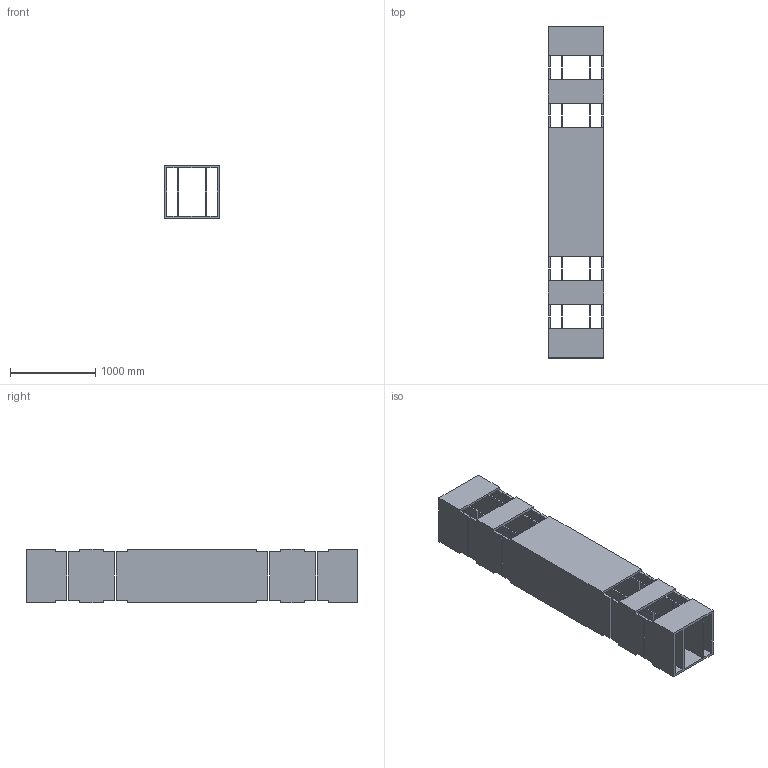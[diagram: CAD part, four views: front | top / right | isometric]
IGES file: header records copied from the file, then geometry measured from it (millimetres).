
Start section:  PTC IGES file: fr_beam_cradle.igs
Global section: file name: fr_beam_cradle.igs; native system: Pro/ENGINEER by Parametric Technology Corporation; preprocessor: 1999260; author: oshatz; organization: Unknown; date: 000922.101453; units: millimetre
Bounding box: 655.4 x 3900 x 628.4 mm (x, y, z)
Surface area: 25605592 mm2 (no closed solid volume)
Topology: 0 solids, 0 shells, 194 faces, 1056 edges, 1056 vertices
Faces by surface type: bspline 194
